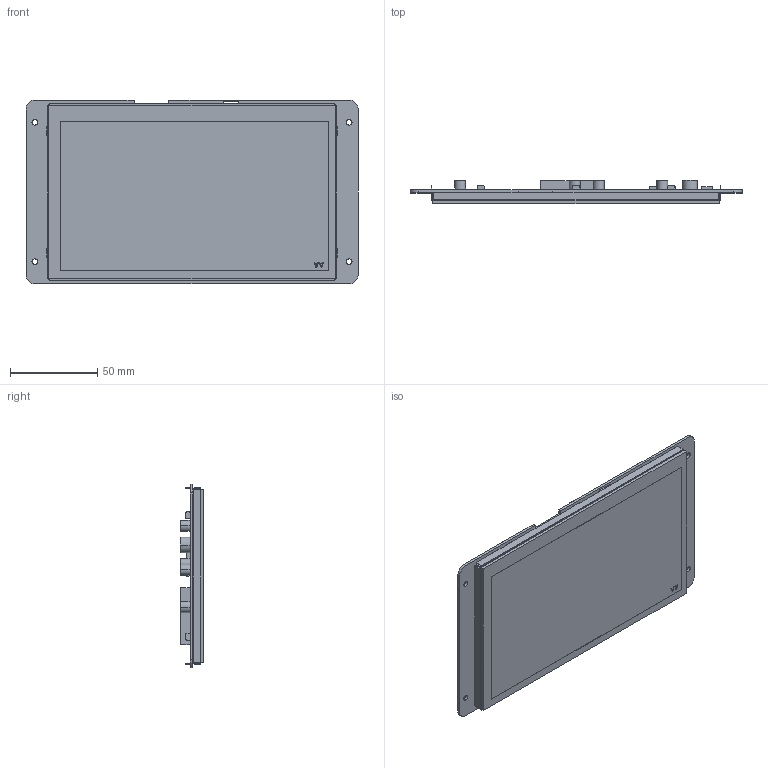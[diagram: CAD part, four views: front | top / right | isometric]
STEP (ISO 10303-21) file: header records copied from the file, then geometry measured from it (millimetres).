
FILE_DESCRIPTION((''),'2;1');
FILE_NAME('DMG80480C070-03WTC_ASM','2023-07-25T',('Administrator'),(''),'PRO/ENGINEER BY PARAMETRIC TECHNOLOGY CORPORATION, 2014320','PRO/ENGINEER BY PARAMETRIC TECHNOLOGY CORPORATION, 2014320','');
FILE_SCHEMA(('CONFIG_CONTROL_DESIGN','SHAPE_APPEARANCE_LAYERS_GROUPS'));
Length unit declared in the file: millimetre
Products named in the file (5): TK070019; LCD_6; CTP; PCB-C070-03; DMG80480C070-03WTC_ASM
Assembly tree (4 placements, depth 2):
  DMG80480C070-03WTC_ASM
    TK070019
    LCD_6
    CTP
    PCB-C070-03
Bounding box: 190.5 x 13.57 x 105.41 mm (x, y, z)
Volume: 125676.2 mm3; surface area: 122166.4 mm2
Topology: 4 solids, 4 shells, 294 faces, 804 edges, 536 vertices
Faces by surface type: plane 234, cylinder 60
Entity records: 11778 total; most frequent: CARTESIAN_POINT 1643, ORIENTED_EDGE 1608, DIRECTION 1530, EDGE_CURVE 804, PRESENTATION_STYLE_ASSIGNMENT 731, STYLED_ITEM 720, CURVE_STYLE 714, VECTOR 684
